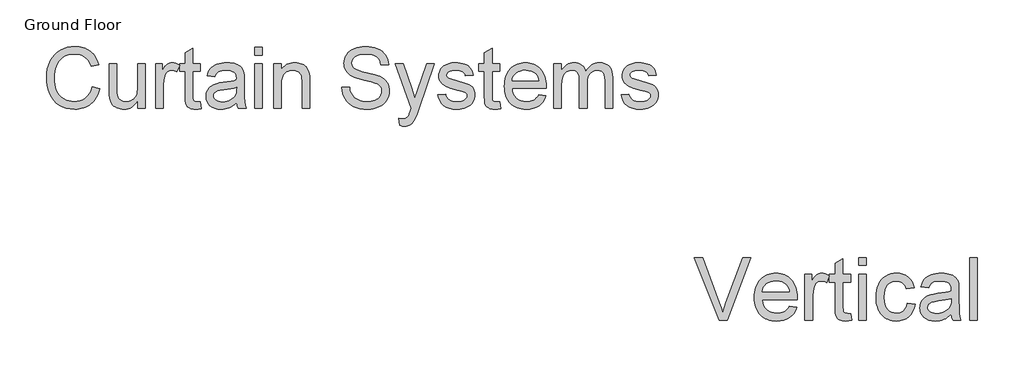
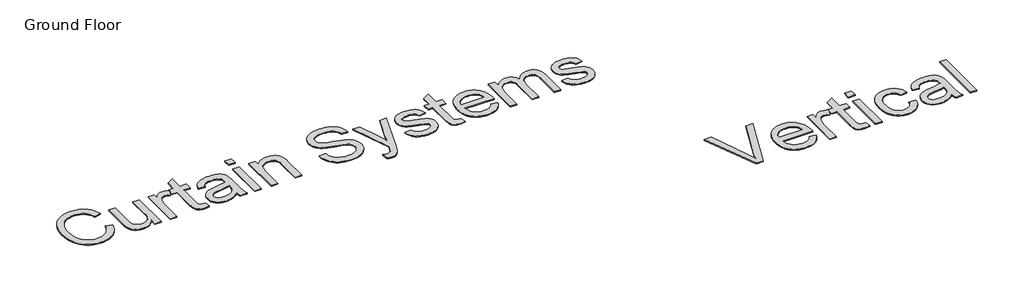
# One storey, part 3 of 11: 2 proxies.
"""IFC4 building model written with IfcOpenShell, lengths in millimetres."""

from ifc_helpers import new_model, si_unit, origin, origin_with_axes, place, context, project, spatial, polyline, outline, extrude, element, save

model = new_model("IFC4")

# Units and contexts
model_context = context("Model", 3, world=origin())
ifc_project = project(units=[si_unit("LENGTHUNIT", "METRE", prefix="MILLI")], contexts=[model_context])

# Site, building, storey
site = spatial("IfcSite", under=ifc_project)
building = spatial("IfcBuilding", under=site)
storey = spatial("IfcBuildingStorey", under=building, Name="Ground Floor", Elevation=0.0)

# Proxies
placement = place(None, origin())
element("IfcBuildingElementProxy", 1, Name="1200mm Arial", ObjectType="1200mm Arial", at=placement, inside=storey, context=model_context, shape_type="SweptSolid", body=[
    extrude(outline(polyline([(-43652.2512377, -5858.0869724), (-43505.3421468, -5895.9619724), (-43534.4119266, -5987.3228566), (-43552.5648474, -6028.6791466), (-43573.1297888, -6067.1526684), (-43596.1067508, -6102.7434221), (-43621.4957334, -6135.4514077), (-43649.2967366, -6165.2766252), (-43679.5097604, -6192.2190746), (-43711.8075232, -6216.1263234), (-43745.8627434, -6236.845939), (-43781.6754209, -6254.3779214), (-43819.2455559, -6268.7222707), (-43858.5731482, -6279.8789868), (-43899.6581979, -6287.8480697), (-43942.500705, -6292.6295194), (-43987.1006695, -6294.223336), (-44076.6861631, -6289.3992948), (-44157.502303, -6274.9271712), (-44229.5490892, -6250.8069653), (-44292.8265218, -6217.0386769), (-44348.2043627, -6174.1244369), (-44396.552374, -6122.5663758), (-44437.8705559, -6062.3644937), (-44472.1589081, -5993.5187906), (-44499.0856659, -5919.006184), (-44518.3190644, -5841.8035917), (-44529.8591034, -5761.9110136), (-44533.7057831, -5679.3284496), (-44529.3569728, -5590.7203175), (-44516.3105416, -5507.9584212), (-44494.5664898, -5431.0427607), (-44464.1248172, -5359.973336), (-44425.666987, -5295.9247742), (-44379.8744621, -5240.0717025), (-44326.7472426, -5192.4141208), (-44266.2853286, -5152.9520292), (-44200.5420757, -5122.0082259), (-44131.5708399, -5099.9055093), (-44059.3716212, -5086.6438793), (-43983.9444195, -5082.223336), (-43899.9182299, -5087.9440391), (-43822.8680701, -5105.1061485), (-43786.9590013, -5117.9777305), (-43752.7939401, -5133.7096641), (-43720.3728863, -5152.3019493), (-43689.6958399, -5173.754586), (-43661.022833, -5197.803059), (-43634.6138975, -5224.1828531), (-43610.4690333, -5252.8939681), (-43588.5882405, -5283.9364042), (-43551.6188691, -5353.0152394), (-43523.7057831, -5431.4193587), (-43670.614874, -5466.4250406), (-43693.7487519, -5408.6531123), (-43721.5452718, -5359.2918729), (-43754.0044337, -5318.3413225), (-43791.1262377, -5285.801461), (-43833.1258826, -5261.0087586), (-43880.2185672, -5243.2996854), (-43932.4042916, -5232.6742415), (-43989.6830559, -5229.1324269), (-44055.5877078, -5233.0598062), (-44115.8613229, -5244.841944), (-44170.503901, -5264.4788403), (-44219.5154422, -5291.9704951), (-44262.2772497, -5326.079515), (-44298.1706269, -5365.5685065), (-44327.1955736, -5410.4374695), (-44349.3520899, -5460.6864042), (-44365.7341034, -5514.0377891), (-44377.4355416, -5568.2141031), (-44384.4564046, -5623.2153459), (-44386.7966922, -5679.0415178), (-44384.0260068, -5749.1963474), (-44375.7139507, -5814.7602678), (-44361.8605239, -5875.7332792), (-44342.4657263, -5932.1153815), (-44317.2157263, -5982.7857472), (-44285.7966922, -6026.6235491), (-44248.208624, -6063.628787), (-44204.4515218, -6093.801461), (-44156.6504742, -6117.213304), (-44106.9305701, -6133.9360491), (-44055.2918094, -6143.9696961), (-44001.7341922, -6147.3142451), (-43937.8649628, -6142.7592025), (-43879.1067064, -6129.0940746), (-43825.459423, -6106.3188616), (-43776.9231127, -6074.4335633), (-43734.6455026, -6033.5816457), (-43699.7743201, -5983.9065746), (-43672.3095651, -5925.4083502), (-43652.2512377, -5858.0869724)])), origin_with_axes(), (0.0, 0.0, 1.0), 20.0),
    extrude(outline(polyline([(-42770.7966922, -6275.8596996), (-42770.7966922, -6127.5159496), (-42796.2798243, -6166.5879933), (-42823.9508115, -6200.4504312), (-42853.8096539, -6229.1032632), (-42885.8563513, -6252.5464894), (-42920.0909039, -6270.7801098), (-42956.5133115, -6283.8041244), (-42995.1235743, -6291.6185331), (-43035.9216922, -6294.223336), (-43072.3172, -6292.3941457), (-43107.4753144, -6286.9065746), (-43141.3960353, -6277.7606229), (-43174.0793627, -6264.9562906), (-43204.0816709, -6249.3902394), (-43229.9593343, -6231.9591315), (-43251.7123527, -6212.6629667), (-43269.3407263, -6191.5017451), (-43283.7500836, -6168.1706016), (-43295.846053, -6142.3646712), (-43313.0978286, -6083.3284496), (-43319.5537945, -6027.6636769), (-43321.7057831, -5946.7489042), (-43321.7057831, -5412.7687906), (-43174.7966922, -5412.7687906), (-43174.7966922, -5877.598336), (-43172.5729706, -5970.5642451), (-43165.9018059, -6027.3767451), (-43157.1055523, -6053.8551719), (-43144.4895189, -6077.3387479), (-43128.0537057, -6097.8274731), (-43107.7981127, -6115.3213474), (-43084.3324699, -6129.3182401), (-43058.2665076, -6139.3160207), (-43029.6002256, -6145.314689), (-42998.333624, -6147.3142451), (-42966.1344941, -6145.2698559), (-42934.9575587, -6139.1366883), (-42904.8028179, -6128.9147423), (-42875.6702718, -6114.6040178), (-42849.1380452, -6096.769412), (-42826.7842632, -6075.9758218), (-42808.6089259, -6052.2232472), (-42794.6120331, -6025.5116883), (-42784.1928215, -5994.1374873), (-42776.7505274, -5956.3969866), (-42772.285151, -5912.2901861), (-42770.7966922, -5861.817086), (-42770.7966922, -5412.7687906), (-42623.8876013, -5412.7687906), (-42623.8876013, -6275.8596996), (-42770.7966922, -6275.8596996)])), origin_with_axes(), (0.0, 0.0, 1.0), 20.0),
    extrude(outline(polyline([(-42421.8876013, -6275.8596996), (-42421.8876013, -5412.7687906), (-42293.3421468, -5412.7687906), (-42293.3421468, -5540.4534496), (-42269.1322746, -5499.6373985), (-42245.8549309, -5466.4250406), (-42223.5101155, -5440.8163758), (-42202.0978286, -5422.8114042), (-42180.6496752, -5410.3836698), (-42158.1972604, -5401.5067167), (-42134.7405843, -5396.1805448), (-42110.2796468, -5394.4051542), (-42073.8393059, -5397.2386059), (-42037.1120331, -5405.738961), (-42000.0978286, -5419.9062195), (-41962.7966922, -5439.7403815), (-42011.8620331, -5571.442086), (-42037.6858968, -5558.2611556), (-42063.5097604, -5548.8462053), (-42089.333624, -5543.1972352), (-42115.1574877, -5541.3142451), (-42137.6726688, -5543.1255022), (-42159.0221894, -5548.5592735), (-42179.2060495, -5557.615559), (-42198.224249, -5570.2943587), (-42215.3594586, -5586.1832082), (-42229.8943485, -5604.8696428), (-42241.8289188, -5626.3536627), (-42251.1631695, -5650.6352678), (-42261.5823811, -5690.7339894), (-42269.0246752, -5732.6977678), (-42274.9785104, -5822.2204951), (-42274.9785104, -6275.8596996), (-42421.8876013, -6275.8596996)])), origin_with_axes(), (0.0, 0.0, 1.0), 20.0),
    extrude(outline(polyline([(-41558.7966922, -6153.3398133), (-41540.4330559, -6280.1636769), (-41598.608482, -6290.7084212), (-41650.3279422, -6294.223336), (-41687.8263442, -6292.6990107), (-41720.8414365, -6288.1260349), (-41749.3732192, -6280.5044084), (-41773.4216922, -6269.8341315), (-41793.6145189, -6256.6890675), (-41810.5793627, -6241.6430803), (-41824.3162235, -6224.6961698), (-41834.8251013, -6205.848336), (-41842.6081269, -6180.5804028), (-41848.1674309, -6144.373194), (-41852.614874, -6039.1409496), (-41852.614874, -5559.6778815), (-41962.7966922, -5559.6778815), (-41962.7966922, -5412.7687906), (-41852.614874, -5412.7687906), (-41852.614874, -5203.0216315), (-41705.7057831, -5116.6551542), (-41705.7057831, -5412.7687906), (-41558.7966922, -5412.7687906), (-41558.7966922, -5559.6778815), (-41705.7057831, -5559.6778815), (-41705.7057831, -6034.8369724), (-41703.7689934, -6083.1849837), (-41697.958624, -6110.5869724), (-41687.808411, -6125.7584923), (-41672.8520899, -6137.4150974), (-41651.6550019, -6144.8394582), (-41622.7824877, -6147.3142451), (-41558.7966922, -6153.3398133)])), origin_with_axes(), (0.0, 0.0, 1.0), 20.0),
    extrude(outline(polyline([(-40860.9785104, -6165.6778815), (-40895.8138264, -6198.3701755), (-40931.1692064, -6225.8618303), (-40967.0446503, -6248.1528459), (-41003.4401581, -6265.2432224), (-41040.7681943, -6277.9220221), (-41079.4412235, -6286.9783076), (-41119.4592455, -6292.4120789), (-41160.8222604, -6294.223336), (-41226.2337483, -6289.865559), (-41283.5932121, -6276.7922281), (-41332.9006517, -6255.0033431), (-41374.1560672, -6224.4989042), (-41406.7317952, -6187.2157011), (-41430.0001723, -6145.0905235), (-41443.9611986, -6098.1233715), (-41448.614874, -6046.3142451), (-41446.8574166, -6015.1642096), (-41441.5850445, -5985.4129667), (-41432.7977576, -5957.0605164), (-41420.4955559, -5930.1068587), (-41405.3330026, -5905.1437906), (-41387.964661, -5882.7631087), (-41368.390531, -5862.9648133), (-41346.6106127, -5845.7489042), (-41298.011536, -5817.7730519), (-41243.7455559, -5797.5443587), (-41190.8783684, -5786.2822849), (-41116.6347604, -5775.4506087), (-40966.4259536, -5752.2091315), (-40908.4298598, -5739.0820008), (-40861.8393059, -5724.9506087), (-40860.9785104, -5692.2403815), (-40863.507097, -5656.6249695), (-40871.092857, -5626.676461), (-40883.7357902, -5602.3948559), (-40901.4358968, -5583.7801542), (-40932.0300019, -5565.201319), (-40969.2952718, -5551.9307224), (-41013.2317064, -5543.9683644), (-41063.8393059, -5541.3142451), (-41110.896124, -5543.0806691), (-41151.3535104, -5548.3799411), (-41185.2114649, -5557.2120611), (-41212.4699877, -5569.5770292), (-41234.8686027, -5586.4432401), (-41254.1468343, -5608.7790888), (-41270.3046823, -5636.5845754), (-41283.3421468, -5669.8596996), (-41430.2512377, -5651.4960633), (-41419.0698634, -5609.1736201), (-41404.7501723, -5571.1551542), (-41387.2921645, -5537.4406656), (-41366.6958399, -5508.0301542), (-41342.0735033, -5482.3318232), (-41312.5374593, -5459.7538758), (-41278.0877078, -5440.2963119), (-41238.724249, -5423.9591315), (-41195.245112, -5411.0292664), (-41148.4483257, -5401.7936485), (-41098.3338904, -5396.2522778), (-41044.9018059, -5394.4051542), (-40992.6712483, -5396.0370789), (-40945.5875303, -5400.9328531), (-40903.6506517, -5409.0924766), (-40866.8606127, -5420.5159496), (-40834.912548, -5434.405243), (-40807.5015928, -5449.9623275), (-40784.6277469, -5467.1872032), (-40766.2910104, -5486.0798701), (-40751.4243556, -5507.1065924), (-40738.9607547, -5530.7336343), (-40721.2427149, -5585.7886769), (-40715.8627434, -5636.5756087), (-40714.0694195, -5714.3341315), (-40714.0694195, -5897.1096996), (-40712.2043627, -6056.3209923), (-40706.6091922, -6152.3355519), (-40695.5623172, -6215.4246854), (-40677.3421468, -6275.8596996), (-40824.2512377, -6275.8596996), (-40837.3066354, -6251.3270292), (-40847.7796468, -6224.785836), (-40860.9785104, -6165.6778815)]), holes=[polyline([(-40860.9785104, -5871.8596996), (-40905.3812093, -5884.5743658), (-40959.6830559, -5896.3206371), (-41097.9841922, -5916.9079951), (-41174.2004564, -5928.170069), (-41224.3776581, -5940.723336), (-41257.2672178, -5957.0067167), (-41281.6205559, -5979.4591315), (-41296.6844763, -6006.3589894), (-41301.7057831, -6035.9846996), (-41298.9709642, -6058.8137124), (-41290.7665076, -6079.670069), (-41277.0924131, -6098.5537692), (-41257.9486809, -6115.4648133), (-41233.5146432, -6129.3989397), (-41203.9696326, -6139.3518871), (-41169.3136489, -6145.3236556), (-41129.5466922, -6147.3142451), (-41088.9458399, -6145.1174234), (-41050.6404422, -6138.5269582), (-41014.630499, -6127.5428495), (-40980.9160104, -6112.1650974), (-40950.5012377, -6093.6669617), (-40924.3904422, -6073.3217025), (-40902.583624, -6051.1293197), (-40885.0807831, -6027.0898133), (-40874.9126368, -6005.5699269), (-40867.6496752, -5979.4591315), (-40863.2918982, -5948.7574269), (-40861.8393059, -5913.4648133), (-40860.9785104, -5871.8596996)])]), origin_with_axes(), (0.0, 0.0, 1.0), 20.0),
    extrude(outline(polyline([(-40512.0694195, -5247.4960633), (-40512.0694195, -5100.5869724), (-40365.1603286, -5100.5869724), (-40365.1603286, -5247.4960633), (-40512.0694195, -5247.4960633)])), origin_with_axes(), (0.0, 0.0, 1.0), 20.0),
    extrude(outline(polyline([(-40512.0694195, -6275.8596996), (-40512.0694195, -5412.7687906), (-40365.1603286, -5412.7687906), (-40365.1603286, -6275.8596996), (-40512.0694195, -6275.8596996)])), origin_with_axes(), (0.0, 0.0, 1.0), 20.0),
    extrude(outline(polyline([(-40144.7966922, -6275.8596996), (-40144.7966922, -5412.7687906), (-39997.8876013, -5412.7687906), (-39997.8876013, -5533.2801542), (-39973.6508293, -5500.7313261), (-39946.8496041, -5472.5223417), (-39917.4839259, -5448.6532011), (-39885.5537945, -5429.1239042), (-39851.05921, -5413.9344511), (-39814.0001723, -5403.0848417), (-39774.3766816, -5396.5750761), (-39732.1887377, -5394.4051542), (-39695.2193662, -5396.153645), (-39659.7743201, -5401.3991173), (-39625.8535992, -5410.1415711), (-39593.4572036, -5422.3810065), (-39563.8135601, -5437.4628602), (-39538.1510956, -5454.732569), (-39516.4698101, -5474.1901329), (-39498.7697036, -5495.8355519), (-39472.049178, -5545.5823559), (-39454.7256695, -5603.8653815), (-39448.9153002, -5659.6018871), (-39446.9785104, -5745.8966315), (-39446.9785104, -6275.8596996), (-39593.8876013, -6275.8596996), (-39593.8876013, -5765.6949269), (-39598.1198456, -5689.7297281), (-39603.410151, -5659.9784852), (-39610.8165786, -5635.7148133), (-39620.9040253, -5615.2798879), (-39634.2373882, -5597.0148843), (-39650.8166674, -5580.9198026), (-39670.6418627, -5566.9946428), (-39693.0315111, -5555.7594688), (-39717.3041496, -5547.7343445), (-39743.4597782, -5542.91927), (-39771.4983968, -5541.3142451), (-39816.1073279, -5544.9188261), (-39857.5420757, -5555.732569), (-39895.8026404, -5573.7554738), (-39930.8890218, -5598.9875406), (-39946.5918138, -5615.0243392), (-39960.2009003, -5634.2980874), (-39971.7162812, -5656.8087852), (-39981.1379564, -5682.5564326), (-39993.7001901, -5743.7625761), (-39997.8876013, -5817.9165178), (-39997.8876013, -6275.8596996), (-40144.7966922, -6275.8596996)])), origin_with_axes(), (0.0, 0.0, 1.0), 20.0),
    extrude(outline(polyline([(-38822.614874, -5871.8596996), (-38675.7057831, -5871.8596996), (-38668.9808186, -5914.6215072), (-38658.8485388, -5953.3842025), (-38645.3089436, -5988.1477856), (-38628.3620331, -6018.9122565), (-38607.1470118, -6046.2963119), (-38580.8030843, -6070.9186485), (-38549.3302505, -6092.7792664), (-38512.7285104, -6111.8781656), (-38472.342857, -6127.3814504), (-38429.5182831, -6138.4552252), (-38384.2547888, -6145.0994901), (-38336.552374, -6147.3142451), (-38294.3554635, -6145.6374873), (-38254.7050729, -6140.6072138), (-38217.6012022, -6132.2234248), (-38183.0438513, -6120.4861201), (-38151.8848492, -6105.8167309), (-38124.9760246, -6088.6366883), (-38102.3173776, -6068.9459923), (-38083.9089081, -6046.7446428), (-38069.66095, -6022.9920682), (-38059.4838371, -5998.6476968), (-38053.3775693, -5973.7115285), (-38051.3421468, -5948.1835633), (-38052.866472, -5922.7631975), (-38057.4394479, -5899.0106229), (-38065.0610743, -5876.9258396), (-38075.7313513, -5856.5088474), (-38091.1180701, -5837.6520469), (-38112.8890218, -5820.2478388), (-38141.0442064, -5804.2962231), (-38175.583624, -5789.7971996), (-38253.1628144, -5766.7350548), (-38389.4912945, -5733.7020292), (-38529.908553, -5696.5802252), (-38581.1527824, -5678.6918197), (-38619.7540786, -5661.2517451), (-38658.9830381, -5637.8488687), (-38692.8858257, -5611.8277394), (-38721.4624415, -5583.1883573), (-38744.7128854, -5551.9307224), (-38762.7268236, -5518.3776329), (-38775.5939223, -5482.8518871), (-38783.3141816, -5445.3534852), (-38785.8876013, -5405.8824269), (-38782.7044514, -5362.1342913), (-38773.1550019, -5319.8387479), (-38757.2392526, -5278.9957969), (-38734.9572036, -5239.6054383), (-38706.5599202, -5203.2726968), (-38672.2984678, -5171.6025974), (-38632.1728463, -5144.59514), (-38586.1830559, -5122.2503246), (-38535.8803215, -5104.7385171), (-38482.8158684, -5092.2300832), (-38426.9896965, -5084.7250228), (-38368.4018059, -5082.223336), (-38304.4877434, -5084.8415888), (-38244.4472604, -5092.6963474), (-38188.280357, -5105.7876116), (-38135.9870331, -5124.1153815), (-38088.5356837, -5147.5182579), (-38046.8947036, -5175.8348417), (-38011.0640928, -5209.0651329), (-37981.0438513, -5247.2091315), (-37957.0671113, -5289.1549766), (-37939.3670047, -5333.7908076), (-37927.9435317, -5381.1166244), (-37922.7966922, -5431.1324269), (-38069.7057831, -5431.1324269), (-38079.5331979, -5384.2549411), (-38096.677374, -5343.4747565), (-38121.1383115, -5308.7918729), (-38152.9160104, -5280.2062906), (-38192.6022675, -5257.8614752), (-38240.7888797, -5241.9008928), (-38297.475847, -5232.3245434), (-38362.6631695, -5229.1324269), (-38429.9307476, -5232.2886769), (-38487.4067774, -5241.7574269), (-38535.091259, -5257.5386769), (-38572.9841922, -5279.6324269), (-38601.8567064, -5306.1915533), (-38622.4799309, -5335.3689326), (-38634.8538655, -5367.1645647), (-38638.9785104, -5401.5784496), (-38636.0553925, -5431.1862266), (-38627.2860388, -5458.0322849), (-38612.6704493, -5482.1166244), (-38592.208624, -5503.4392451), (-38560.0005274, -5523.6320718), (-38509.2853286, -5544.0400974), (-38440.0630274, -5564.6633218), (-38352.333624, -5585.5017451), (-38190.3606127, -5624.8831371), (-38133.3687803, -5642.6908431), (-38092.3733968, -5659.2432224), (-38047.3340679, -5684.3318232), (-38008.6251723, -5712.5408076), (-37976.24671, -5743.8701755), (-37950.1986809, -5778.3199269), (-37930.1762199, -5815.7107295), (-37915.8744621, -5855.8632508), (-37907.2934074, -5898.7774908), (-37904.4330559, -5944.4534496), (-37907.7238051, -5990.4073736), (-37917.596053, -6035.0163048), (-37934.0497995, -6078.280243), (-37957.0850445, -6120.1991883), (-37986.2982902, -6159.1501826), (-38021.2860388, -6193.5102678), (-38062.0482902, -6223.279444), (-38108.5850445, -6248.457711), (-38159.5423421, -6268.4801719), (-38213.5662235, -6282.7819298), (-38270.6566887, -6291.3629844), (-38330.8137377, -6294.223336), (-38405.9629742, -6291.138819), (-38474.745911, -6281.8852678), (-38537.162548, -6266.4626826), (-38593.2128854, -6244.8710633), (-38643.2376546, -6217.0745434), (-38687.5775871, -6183.0372565), (-38726.232683, -6142.7592025), (-38759.2029422, -6096.2403815), (-38785.7620686, -6044.9871854), (-38805.1837661, -5990.5060065), (-38817.4680345, -5932.7968445), (-38822.614874, -5871.8596996)])), origin_with_axes(), (0.0, 0.0, 1.0), 20.0),
    extrude(outline(polyline([(-37702.4330559, -6606.4051542), (-37720.7966922, -6464.9477678), (-37680.7697036, -6474.6317167), (-37646.1944195, -6477.8596996), (-37606.9564934, -6473.8067877), (-37576.4699877, -6461.6480519), (-37552.7263797, -6442.2442877), (-37533.7171468, -6416.4562906), (-37517.505499, -6378.5095576), (-37493.5466922, -6308.2829951), (-37482.0694195, -6272.7034496), (-37794.2512377, -5412.7687906), (-37639.3080559, -5412.7687906), (-37473.7483968, -5891.9449269), (-37443.2618911, -5985.4846996), (-37416.0751013, -6083.6153815), (-37358.4018059, -5914.3256087), (-37188.2512377, -5412.7687906), (-37034.4557831, -5412.7687906), (-37334.8733968, -6296.5187906), (-37379.4912945, -6414.0173701), (-37412.9188513, -6488.1892451), (-37432.2329493, -6521.1326045), (-37452.874107, -6549.3774553), (-37474.8423243, -6572.9237977), (-37498.1376013, -6591.7716315), (-37523.2620686, -6606.2078886), (-37550.717857, -6616.5195008), (-37580.5049664, -6622.7064681), (-37612.6233968, -6624.7687906), (-37655.1610388, -6620.1778815), (-37702.4330559, -6606.4051542)])), origin_with_axes(), (0.0, 0.0, 1.0), 20.0),
    extrude(outline(polyline([(-36967.8876013, -6018.7687906), (-36820.9785104, -6000.4051542), (-36812.1015573, -6033.904444), (-36797.8087661, -6063.2432224), (-36778.1001368, -6088.4214894), (-36752.9756695, -6109.4392451), (-36722.3636311, -6126.0095576), (-36686.1922888, -6137.8454951), (-36644.4616425, -6144.9470576), (-36597.1716922, -6147.3142451), (-36549.9355416, -6145.1443232), (-36509.2270899, -6138.6345576), (-36475.0463371, -6127.7849482), (-36447.3932831, -6112.5954951), (-36426.0527291, -6094.4829241), (-36410.8094763, -6074.863961), (-36401.6635246, -6053.7386059), (-36398.614874, -6031.1068587), (-36401.6814578, -6011.2726968), (-36410.8812093, -5993.6622565), (-36426.2141283, -5978.2755377), (-36447.6802149, -5965.1125406), (-36502.6993911, -5946.4619724), (-36598.8932831, -5923.2204951), (-36732.9621752, -5884.4488332), (-36820.1177149, -5851.3440746), (-36850.0393236, -5834.7468623), (-36876.105286, -5815.226532), (-36898.315602, -5792.7830839), (-36916.6702718, -5767.4165178), (-36931.0437625, -5739.8889965), (-36941.3105416, -5710.9626826), (-36947.4706091, -5680.6375761), (-36949.5239649, -5648.9136769), (-36947.874107, -5619.9066634), (-36942.9245331, -5591.9935775), (-36934.6752434, -5565.1744191), (-36923.1262377, -5539.4491883), (-36908.725847, -5515.3379489), (-36891.9224024, -5493.360765), (-36872.7159039, -5473.5176364), (-36851.1063513, -5455.8085633), (-36810.5413655, -5432.1725548), (-36757.7100445, -5412.3383928), (-36696.6294337, -5398.8884638), (-36631.3165786, -5394.4051542), (-36581.9463726, -5396.2074447), (-36535.6965502, -5401.6143161), (-36492.5671113, -5410.6257685), (-36452.5580559, -5423.2418019), (-36416.6198456, -5438.9333857), (-36385.7029422, -5457.1714894), (-36359.8073456, -5477.956113), (-36338.9330559, -5501.2872565), (-36322.0040786, -5527.9808822), (-36307.9444195, -5558.8529525), (-36296.7540786, -5593.9034674), (-36288.4330559, -5633.1324269), (-36435.3421468, -5651.4960633), (-36442.3450764, -5626.9544262), (-36453.8851155, -5605.2641741), (-36469.9622639, -5586.4253069), (-36490.5765218, -5570.4378246), (-36515.8175551, -5557.6962586), (-36545.7750303, -5548.59514), (-36580.4489472, -5543.1344688), (-36619.8393059, -5541.3142451), (-36665.5331979, -5543.0537692), (-36704.1972604, -5548.2723417), (-36735.8314934, -5556.9699624), (-36760.4358968, -5569.1466315), (-36778.8891993, -5583.6366883), (-36792.0701297, -5599.2744724), (-36799.978688, -5616.0599837), (-36802.614874, -5633.9932224), (-36798.2391638, -5656.5891031), (-36785.1120331, -5676.7460633), (-36762.6596184, -5694.7510349), (-36730.3080559, -5709.1693587), (-36603.771124, -5740.4449269), (-36473.9703428, -5778.8220576), (-36388.1418627, -5809.5954951), (-36357.9422888, -5824.6056158), (-36331.1858968, -5842.6643871), (-36307.8726865, -5863.771809), (-36288.0026581, -5887.9278815), (-36272.1227753, -5915.1684709), (-36260.7800019, -5945.529444), (-36253.9743378, -5979.0108005), (-36251.7057831, -6015.6125406), (-36254.3688691, -6052.3756798), (-36262.3581269, -6088.0628246), (-36275.6735566, -6122.6739752), (-36294.3151581, -6156.2091315), (-36317.9780665, -6187.3322671), (-36346.3574166, -6214.7073559), (-36379.4532086, -6238.3343978), (-36417.2654422, -6258.2133928), (-36458.7629564, -6273.967743), (-36502.9145899, -6285.2208502), (-36549.7203428, -6291.9727146), (-36599.1802149, -6294.223336), (-36678.2478641, -6289.8834923), (-36747.3087661, -6276.863961), (-36806.3629209, -6255.1647423), (-36855.4103286, -6224.785836), (-36895.4731837, -6185.8707082), (-36927.5736809, -6138.5628246), (-36951.7118201, -6082.8621854), (-36967.8876013, -6018.7687906)])), origin_with_axes(), (0.0, 0.0, 1.0), 20.0),
    extrude(outline(polyline([(-35774.2512377, -6153.3398133), (-35755.8876013, -6280.1636769), (-35814.0630274, -6290.7084212), (-35865.7824877, -6294.223336), (-35903.2808897, -6292.6990107), (-35936.295982, -6288.1260349), (-35964.8277647, -6280.5044084), (-35988.8762377, -6269.8341315), (-36009.0690644, -6256.6890675), (-36026.0339081, -6241.6430803), (-36039.7707689, -6224.6961698), (-36050.2796468, -6205.848336), (-36058.0626723, -6180.5804028), (-36063.6219763, -6144.373194), (-36068.0694195, -6039.1409496), (-36068.0694195, -5559.6778815), (-36178.2512377, -5559.6778815), (-36178.2512377, -5412.7687906), (-36068.0694195, -5412.7687906), (-36068.0694195, -5203.0216315), (-35921.1603286, -5116.6551542), (-35921.1603286, -5412.7687906), (-35774.2512377, -5412.7687906), (-35774.2512377, -5559.6778815), (-35921.1603286, -5559.6778815), (-35921.1603286, -6034.8369724), (-35919.2235388, -6083.1849837), (-35913.4131695, -6110.5869724), (-35903.2629564, -6125.7584923), (-35888.3066354, -6137.4150974), (-35867.1095473, -6144.8394582), (-35838.2370331, -6147.3142451), (-35774.2512377, -6153.3398133)])), origin_with_axes(), (0.0, 0.0, 1.0), 20.0),
    extrude(outline(polyline([(-35023.0637377, -6018.7687906), (-34879.0239649, -6037.1324269), (-34901.1087483, -6094.8236556), (-34930.9227576, -6145.6643871), (-34968.4659926, -6189.6546215), (-35013.7384536, -6226.7943587), (-35066.2738762, -6256.2945363), (-35125.6059962, -6277.3660917), (-35191.7348137, -6290.0090249), (-35264.6603286, -6294.223336), (-35311.4795314, -6292.4053539), (-35355.8149806, -6286.9514077), (-35397.6666762, -6277.8614974), (-35437.0346184, -6265.1356229), (-35473.9188069, -6248.7737843), (-35508.3192419, -6228.7759816), (-35540.2359234, -6205.1422147), (-35569.6688513, -6177.8724837), (-35596.0979617, -6147.3209701), (-35619.0031908, -6113.8418552), (-35638.3845385, -6077.4351391), (-35654.2420047, -6038.1008218), (-35666.5755896, -5995.8389033), (-35675.3852931, -5950.6493836), (-35680.6711152, -5902.5322627), (-35682.4330559, -5851.4875406), (-35680.6531819, -5798.7055359), (-35675.3135601, -5748.9632153), (-35666.4141904, -5702.2605785), (-35653.9550729, -5658.5976258), (-35637.9362075, -5617.974357), (-35618.3575942, -5580.3907721), (-35595.2192331, -5545.8468712), (-35568.521124, -5514.3426542), (-35538.98508, -5486.2323026), (-35507.3329138, -5461.8699979), (-35473.5646255, -5441.2557401), (-35437.6802149, -5424.3895292), (-35399.6796823, -5411.2713651), (-35359.5630274, -5401.9012479), (-35317.3302505, -5396.2791776), (-35272.9813513, -5394.4051542), (-35230.0828028, -5396.2746943), (-35189.1882938, -5401.8833147), (-35150.2978241, -5411.2310153), (-35113.4113939, -5424.3177962), (-35078.5290031, -5441.1436574), (-35045.6506517, -5461.7085988), (-35014.7763398, -5486.0126205), (-34985.9060672, -5514.0557224), (-34959.7795802, -5545.4882064), (-34937.1366247, -5579.9603744), (-34917.9772009, -5617.4722263), (-34902.3013087, -5658.0237621), (-34890.1089481, -5701.614982), (-34881.4001191, -5748.2458857), (-34876.1748217, -5797.9164734), (-34874.4330559, -5850.6267451), (-34875.2938513, -5890.223336), (-35535.5239649, -5890.223336), (-35527.0146432, -5948.8470931), (-35510.0946326, -6000.1899553), (-35484.763933, -6044.2519227), (-35451.0225445, -6081.0329951), (-35410.7355239, -6110.031042), (-35365.767928, -6130.7439326), (-35316.1197568, -6143.171667), (-35261.7910104, -6147.3142451), (-35221.1542916, -6145.3953886), (-35183.6020899, -6139.638819), (-35149.1344053, -6130.0445363), (-35117.7512377, -6116.6125406), (-35089.4525871, -6098.984167), (-35064.2384536, -6076.8007508), (-35042.1088371, -6050.062292), (-35023.0637377, -6018.7687906)]), holes=[polyline([(-35535.5239649, -5743.3142451), (-35021.3421468, -5743.3142451), (-35028.8920402, -5701.7449979), (-35041.2121752, -5665.6991883), (-35058.3025516, -5635.1768161), (-35080.1631695, -5610.1778815), (-35120.2260246, -5580.0500406), (-35165.8123172, -5558.5301542), (-35216.9220473, -5545.6182224), (-35273.5552149, -5541.3142451), (-35325.2119088, -5544.7484603), (-35372.5825587, -5555.0511059), (-35415.6671645, -5572.2221819), (-35454.4657263, -5596.2616883), (-35487.0235211, -5626.0577643), (-35511.3858257, -5660.4985491), (-35527.5526404, -5699.5840427), (-35535.5239649, -5743.3142451)])]), origin_with_axes(), (0.0, 0.0, 1.0), 20.0),
    extrude(outline(polyline([(-34727.5239649, -6275.8596996), (-34727.5239649, -5412.7687906), (-34580.614874, -5412.7687906), (-34580.614874, -5554.8000406), (-34560.099249, -5520.4130555), (-34536.427374, -5489.5589184), (-34509.599249, -5462.2376293), (-34479.614874, -5438.4491883), (-34446.9584465, -5419.1799234), (-34412.1141638, -5405.4161627), (-34375.082026, -5397.1579063), (-34335.8620331, -5394.4051542), (-34292.9836595, -5397.211706), (-34254.1581979, -5405.6313616), (-34219.3856482, -5419.6641208), (-34188.6660104, -5439.3099837), (-34162.0889507, -5464.01302), (-34139.7441354, -5493.2172991), (-34121.6315644, -5526.9228211), (-34107.7512377, -5565.129586), (-34081.9184074, -5525.1160473), (-34054.2025871, -5490.4376471), (-34024.6037767, -5461.0943854), (-33993.1219763, -5437.0862621), (-33959.7571858, -5418.4132774), (-33924.5094053, -5405.0754312), (-33887.3786347, -5397.0727234), (-33848.364874, -5394.4051542), (-33789.5528179, -5398.8436307), (-33737.9319905, -5412.1590604), (-33693.5023918, -5434.3514432), (-33656.2640218, -5465.4207792), (-33626.8266105, -5505.725733), (-33605.7998882, -5555.6249695), (-33593.1838549, -5615.1184887), (-33588.9785104, -5684.2062906), (-33588.9785104, -6275.8596996), (-33735.8876013, -6275.8596996), (-33735.8876013, -5747.3312906), (-33739.2949166, -5674.0560775), (-33749.5168627, -5624.6679383), (-33757.7123527, -5606.8512657), (-33768.6695615, -5590.8458502), (-33782.3884891, -5576.6516918), (-33798.8691354, -5564.2687906), (-33817.510737, -5554.2261769), (-33837.7125303, -5547.0528815), (-33882.7966922, -5541.3142451), (-33924.4287057, -5544.990559), (-33962.3844053, -5556.0195008), (-33996.6637909, -5574.4010704), (-34027.2668627, -5600.1352678), (-34052.4361631, -5633.9752891), (-34070.4142348, -5676.6743303), (-34081.2010779, -5728.2323914), (-34084.7966922, -5788.6494724), (-34084.7966922, -6275.8596996), (-34231.7057831, -6275.8596996), (-34231.7057831, -5730.9761769), (-34233.8308719, -5686.4658786), (-34240.2061382, -5647.9094156), (-34250.8315821, -5615.3067877), (-34265.7072036, -5588.6579951), (-34285.4247995, -5567.9451045), (-34310.5761666, -5553.1501826), (-34341.1613051, -5544.2732295), (-34377.1802149, -5541.3142451), (-34406.0347959, -5543.2869013), (-34433.7775161, -5549.2048701), (-34460.4083755, -5559.0681513), (-34485.927374, -5572.8767451), (-34509.1688513, -5590.4871854), (-34528.9671468, -5611.7560065), (-34545.3222604, -5636.6832082), (-34558.2341922, -5665.2687906), (-34568.0257405, -5699.0370789), (-34575.0197036, -5739.5123985), (-34580.614874, -5840.5841315), (-34580.614874, -6275.8596996), (-34727.5239649, -6275.8596996)])), origin_with_axes(), (0.0, 0.0, 1.0), 20.0),
    extrude(outline(polyline([(-33423.7057831, -6018.7687906), (-33276.7966922, -6000.4051542), (-33267.9197391, -6033.904444), (-33253.6269479, -6063.2432224), (-33233.9183186, -6088.4214894), (-33208.7938513, -6109.4392451), (-33178.181813, -6126.0095576), (-33142.0104706, -6137.8454951), (-33100.2798243, -6144.9470576), (-33052.989874, -6147.3142451), (-33005.7537235, -6145.1443232), (-32965.0452718, -6138.6345576), (-32930.8645189, -6127.7849482), (-32903.2114649, -6112.5954951), (-32881.870911, -6094.4829241), (-32866.6276581, -6074.863961), (-32857.4817064, -6053.7386059), (-32854.4330559, -6031.1068587), (-32857.4996397, -6011.2726968), (-32866.6993911, -5993.6622565), (-32882.0323101, -5978.2755377), (-32903.4983968, -5965.1125406), (-32958.5175729, -5946.4619724), (-33054.7114649, -5923.2204951), (-33188.780357, -5884.4488332), (-33275.9358968, -5851.3440746), (-33305.8575054, -5834.7468623), (-33331.9234678, -5815.226532), (-33354.1337838, -5792.7830839), (-33372.4884536, -5767.4165178), (-33386.8619443, -5739.8889965), (-33397.1287235, -5710.9626826), (-33403.2887909, -5680.6375761), (-33405.3421468, -5648.9136769), (-33403.6922888, -5619.9066634), (-33398.7427149, -5591.9935775), (-33390.4934252, -5565.1744191), (-33378.9444195, -5539.4491883), (-33364.5440289, -5515.3379489), (-33347.7405843, -5493.360765), (-33328.5340857, -5473.5176364), (-33306.9245331, -5455.8085633), (-33266.3595473, -5432.1725548), (-33213.5282263, -5412.3383928), (-33152.4476155, -5398.8884638), (-33087.1347604, -5394.4051542), (-33037.7645544, -5396.2074447), (-32991.514732, -5401.6143161), (-32948.3852931, -5410.6257685), (-32908.3762377, -5423.2418019), (-32872.4380274, -5438.9333857), (-32841.521124, -5457.1714894), (-32815.6255274, -5477.956113), (-32794.7512377, -5501.2872565), (-32777.8222604, -5527.9808822), (-32763.7626013, -5558.8529525), (-32752.5722604, -5593.9034674), (-32744.2512377, -5633.1324269), (-32891.1603286, -5651.4960633), (-32898.1632583, -5626.9544262), (-32909.7032973, -5605.2641741), (-32925.7804458, -5586.4253069), (-32946.3947036, -5570.4378246), (-32971.635737, -5557.6962586), (-33001.5932121, -5548.59514), (-33036.267129, -5543.1344688), (-33075.6574877, -5541.3142451), (-33121.3513797, -5543.0537692), (-33160.0154422, -5548.2723417), (-33191.6496752, -5556.9699624), (-33216.2540786, -5569.1466315), (-33234.7073811, -5583.6366883), (-33247.8883115, -5599.2744724), (-33255.7968698, -5616.0599837), (-33258.4330559, -5633.9932224), (-33254.0573456, -5656.5891031), (-33240.9302149, -5676.7460633), (-33218.4778002, -5694.7510349), (-33186.1262377, -5709.1693587), (-33059.5893059, -5740.4449269), (-32929.7885246, -5778.8220576), (-32843.9600445, -5809.5954951), (-32813.7604706, -5824.6056158), (-32787.0040786, -5842.6643871), (-32763.6908684, -5863.771809), (-32743.8208399, -5887.9278815), (-32727.9409571, -5915.1684709), (-32716.5981837, -5945.529444), (-32709.7925196, -5979.0108005), (-32707.5239649, -6015.6125406), (-32710.1870509, -6052.3756798), (-32718.1763087, -6088.0628246), (-32731.4917384, -6122.6739752), (-32750.1333399, -6156.2091315), (-32773.7962483, -6187.3322671), (-32802.1755985, -6214.7073559), (-32835.2713904, -6238.3343978), (-32873.083624, -6258.2133928), (-32914.5811382, -6273.967743), (-32958.7327718, -6285.2208502), (-33005.5385246, -6291.9727146), (-33054.9983968, -6294.223336), (-33134.0660459, -6289.8834923), (-33203.1269479, -6276.863961), (-33262.1811027, -6255.1647423), (-33311.2285104, -6224.785836), (-33351.2913655, -6185.8707082), (-33383.3918627, -6138.5628246), (-33407.5300019, -6082.8621854), (-33423.7057831, -6018.7687906)])), origin_with_axes(), (0.0, 0.0, 1.0), 20.0),
])
element("IfcBuildingElementProxy", 2, Name="1200mm Arial", ObjectType="1200mm Arial", at=placement, inside=storey, context=model_context, shape_type="SweptSolid", body=[
    extrude(outline(polyline([(-31530.9350667, -10369.0635658), (-32010.6531884, -9163.587844), (-31849.3737217, -9163.587844), (-31528.2863163, -10032.0836582), (-31492.6017628, -10133.2512069), (-31463.2447796, -10227.7968796), (-31433.3727616, -10129.8666925), (-31399.0861596, -10032.0836582), (-31077.1158374, -9163.587844), (-30915.8363708, -9163.587844), (-31375.2474063, -10369.0635658), (-31530.9350667, -10369.0635658)])), origin_with_axes(), (0.0, 0.0, 1.0), 20.0),
    extrude(outline(polyline([(-30174.7748797, -10105.3657516), (-30027.0334704, -10124.2013098), (-30049.6858043, -10183.3751287), (-30080.2659951, -10235.5224015), (-30118.774043, -10280.6431282), (-30165.2099478, -10318.7373088), (-30219.095463, -10348.9956029), (-30279.9523421, -10370.6086701), (-30347.780585, -10383.5765105), (-30422.5801916, -10387.8991239), (-30470.6025876, -10386.034422), (-30516.0774007, -10380.4403165), (-30559.004631, -10371.1168071), (-30599.3842785, -10358.0638941), (-30637.2163432, -10341.2815773), (-30672.5008251, -10320.7698568), (-30705.2377241, -10296.5287326), (-30735.4270403, -10268.5582047), (-30762.5353448, -10237.2215565), (-30786.0292088, -10202.8820715), (-30805.9086321, -10165.5397497), (-30822.1736148, -10125.1945912), (-30834.8241569, -10081.8465958), (-30843.8602584, -10035.4957637), (-30849.2819193, -9986.1420948), (-30851.0891396, -9933.7855891), (-30849.2635252, -9879.647155), (-30843.786682, -9828.6265207), (-30834.65861, -9780.7236864), (-30821.8793092, -9735.9386521), (-30805.4487796, -9694.2714176), (-30785.3670212, -9655.721983), (-30761.634034, -9620.2903484), (-30734.2498179, -9587.9765136), (-30703.9547356, -9559.1437622), (-30671.4891496, -9534.1553777), (-30636.8530597, -9513.01136), (-30600.0464661, -9495.7117092), (-30561.0693687, -9482.2564252), (-30519.9217676, -9472.6455081), (-30476.6036626, -9466.8789578), (-30431.1150539, -9464.9567744), (-30387.114068, -9466.8743593), (-30345.1686228, -9472.627114), (-30305.2787182, -9482.2150385), (-30267.4443543, -9495.6381328), (-30231.665531, -9512.8963969), (-30197.9422483, -9533.9898308), (-30166.2745063, -9558.9184345), (-30136.662305, -9587.682208), (-30109.8644009, -9619.9224664), (-30086.6395507, -9655.2805246), (-30066.9877544, -9693.7563828), (-30050.9090119, -9735.3500409), (-30038.4033233, -9780.0614989), (-30029.4706886, -9827.8907568), (-30024.1111078, -9878.8378146), (-30022.3245809, -9932.9026723), (-30023.2074977, -9973.5168445), (-30700.4046744, -9973.5168445), (-30691.676674, -10033.6471567), (-30674.3218409, -10086.3094643), (-30648.340175, -10131.5037674), (-30613.7316763, -10169.230066), (-30572.4093312, -10198.9733253), (-30526.2861261, -10220.2185105), (-30475.3620609, -10232.9656216), (-30419.6371357, -10237.2146587), (-30377.9561056, -10235.24649), (-30339.4388607, -10229.341984), (-30304.085401, -10219.5011406), (-30271.8957264, -10205.7239599), (-30242.869837, -10187.6425598), (-30217.0077327, -10164.8890584), (-30194.3094136, -10137.4634557), (-30174.7748797, -10105.3657516)]), holes=[polyline([(-30700.4046744, -9822.8323793), (-30173.0090461, -9822.8323793), (-30180.7529621, -9780.1948561), (-30193.3897086, -9743.2227156), (-30210.9192857, -9711.9159578), (-30233.3416933, -9686.2745827), (-30274.4341122, -9655.3724951), (-30321.1919138, -9633.2995754), (-30373.6150981, -9620.0558236), (-30431.7036651, -9615.6412396), (-30484.6878695, -9619.1637097), (-30533.275884, -9629.7311201), (-30577.4677086, -9647.3434706), (-30617.2633435, -9672.0007613), (-30650.6578316, -9702.562558), (-30675.6462161, -9737.8884266), (-30692.228497, -9777.9783671), (-30700.4046744, -9822.8323793)])]), origin_with_axes(), (0.0, 0.0, 1.0), 20.0),
    extrude(outline(polyline([(-29871.6401157, -10369.0635658), (-29871.6401157, -9483.7923326), (-29739.7912086, -9483.7923326), (-29739.7912086, -9614.7583228), (-29714.9591739, -9572.8933518), (-29691.0836324, -9538.827479), (-29668.1645841, -9512.5607046), (-29646.202029, -9494.0930284), (-29624.2026857, -9481.3459173), (-29601.1732728, -9472.2408379), (-29577.1137903, -9466.7777903), (-29552.0242382, -9464.9567744), (-29514.6474275, -9467.8630422), (-29476.9763112, -9476.5818455), (-29439.0108893, -9491.1131843), (-29400.7511618, -9511.4570586), (-29451.0774188, -9646.5433272), (-29477.5649224, -9633.0236639), (-29504.0524261, -9623.3667615), (-29530.5399297, -9617.5726201), (-29557.0274334, -9615.6412396), (-29580.1212256, -9617.4990437), (-29602.0194014, -9623.0724559), (-29622.7219607, -9632.3614763), (-29642.2289035, -9645.3661048), (-29659.8044658, -9661.6632772), (-29674.7128836, -9680.8299292), (-29686.954157, -9702.8660607), (-29696.5282859, -9727.7716718), (-29707.2152579, -9768.9008788), (-29714.8488093, -9811.9430723), (-29720.9556504, -9903.7664183), (-29720.9556504, -10369.0635658), (-29871.6401157, -10369.0635658)])), origin_with_axes(), (0.0, 0.0, 1.0), 20.0),
    extrude(outline(polyline([(-28986.3688825, -10243.3950762), (-28967.5333243, -10373.4781497), (-29027.2037839, -10384.2938804), (-29080.2523676, -10387.8991239), (-29118.7144302, -10386.3356254), (-29152.5779679, -10381.64513), (-29181.8429806, -10373.8276376), (-29206.5094684, -10362.8831482), (-29227.2212247, -10349.4002731), (-29244.6220431, -10333.9676234), (-29258.7119235, -10316.5851991), (-29269.4908659, -10297.2530003), (-29277.4739052, -10271.3357137), (-29283.1760762, -10234.1980263), (-29287.7378129, -10126.2614489), (-29287.7378129, -9634.4767978), (-29400.7511618, -9634.4767978), (-29400.7511618, -9483.7923326), (-29287.7378129, -9483.7923326), (-29287.7378129, -9268.6549418), (-29137.0533477, -9180.0689573), (-29137.0533477, -9483.7923326), (-28986.3688825, -9483.7923326), (-28986.3688825, -9634.4767978), (-29137.0533477, -9634.4767978), (-29137.0533477, -10121.846865), (-29135.0667849, -10171.437358), (-29129.1070966, -10199.5435424), (-29118.6960361, -10215.1049508), (-29103.3553569, -10227.0611156), (-29081.613531, -10234.6762729), (-29051.9990304, -10237.2146587), (-28986.3688825, -10243.3950762)])), origin_with_axes(), (0.0, 0.0, 1.0), 20.0),
    extrude(outline(polyline([(-28835.6844172, -10369.0635658), (-28835.6844172, -9483.7923326), (-28684.999952, -9483.7923326), (-28684.999952, -10369.0635658), (-28835.6844172, -10369.0635658)])), origin_with_axes(), (0.0, 0.0, 1.0), 20.0),
    extrude(outline(polyline([(-28835.6844172, -9314.2723092), (-28835.6844172, -9163.587844), (-28684.999952, -9163.587844), (-28684.999952, -9314.2723092), (-28835.6844172, -9314.2723092)])), origin_with_axes(), (0.0, 0.0, 1.0), 20.0),
    extrude(outline(polyline([(-27893.9065096, -10048.8590772), (-27743.2220444, -10067.6946353), (-27759.6111872, -10138.7970279), (-27785.2341682, -10201.7140462), (-27820.0909872, -10256.44569), (-27864.1816444, -10302.9919594), (-27915.6483355, -10340.1388439), (-27972.6332565, -10366.6723328), (-28035.1364075, -10382.5924261), (-28103.1577884, -10387.8991239), (-28146.5057838, -10386.0482176), (-28187.6694798, -10380.4954988), (-28226.6488764, -10371.2409673), (-28263.4439737, -10358.2846233), (-28298.0547717, -10341.6264667), (-28330.4812703, -10321.2664975), (-28360.7234696, -10297.2047158), (-28388.7813695, -10269.4411215), (-28414.0617603, -10238.2194364), (-28435.9714324, -10203.7833824), (-28454.5103857, -10166.1329594), (-28469.6786202, -10125.2681676), (-28481.476136, -10081.1890067), (-28489.9029329, -10033.895477), (-28494.9590111, -9983.3875783), (-28496.6443705, -9929.6653107), (-28493.7656939, -9860.383934), (-28485.129664, -9795.5723235), (-28470.736281, -9735.2304792), (-28450.5855447, -9679.3584012), (-28424.5394994, -9629.0781295), (-28392.4601894, -9585.5117042), (-28354.3476147, -9548.6591254), (-28310.2017753, -9518.5203929), (-28262.018431, -9495.0863098), (-28211.7933416, -9478.347679), (-28159.5265071, -9468.3045006), (-28105.2179276, -9464.9567744), (-28038.364572, -9469.5552994), (-27977.8939691, -9483.3508742), (-27923.8061187, -9506.3434989), (-27876.101021, -9538.5331734), (-27835.5880163, -9579.1841339), (-27803.076445, -9627.5606163), (-27778.566307, -9683.6626205), (-27762.0576025, -9747.4901467), (-27912.7420677, -9766.3257049), (-27924.5050945, -9731.128595), (-27940.0757, -9700.5851923), (-27959.4538841, -9674.6954969), (-27982.6396468, -9653.4595087), (-28009.044377, -9636.914016), (-28038.0794635, -9625.0958069), (-28069.7449062, -9618.0048815), (-28104.0407052, -9615.6412396), (-28155.2406819, -9620.2949469), (-28201.4190693, -9634.2560686), (-28242.5758676, -9657.5246048), (-28278.7110765, -9690.1005555), (-28294.4725208, -9710.0673507), (-28308.1324391, -9732.7380787), (-28329.1476981, -9786.1913326), (-28341.7568535, -9850.4603172), (-28345.9599053, -9925.5450324), (-28341.848824, -10001.7609847), (-28329.5155801, -10066.7749303), (-28308.9601736, -10120.5868692), (-28295.5991594, -10143.2920861), (-28280.1826045, -10163.1968013), (-28244.7647654, -10195.5796139), (-28204.2885489, -10218.7101943), (-28158.753955, -10232.5885426), (-28108.1609836, -10237.2146587), (-28067.3904615, -10234.326785), (-28030.1332124, -10225.663164), (-27996.3892364, -10211.2237957), (-27966.1585334, -10191.0086801), (-27940.2872321, -10164.7970879), (-27919.621461, -10132.3682901), (-27904.1612202, -10093.7222865), (-27893.9065096, -10048.8590772)])), origin_with_axes(), (0.0, 0.0, 1.0), 20.0),
    extrude(outline(polyline([(-27046.3063927, -10256.0502168), (-27082.0369315, -10289.5826607), (-27118.3008991, -10317.7808156), (-27155.0982957, -10340.6446816), (-27192.4291212, -10358.1742587), (-27230.7164398, -10371.1788872), (-27270.383316, -10380.4679076), (-27311.4297496, -10386.0413198), (-27353.8557407, -10387.8991239), (-27420.9482195, -10383.4293577), (-27479.7817476, -10370.0200589), (-27530.3563249, -10347.6712277), (-27572.6719514, -10316.3828641), (-27606.0848336, -10278.1415307), (-27629.951178, -10234.9337903), (-27644.2709847, -10186.759643), (-27649.0442536, -10133.6190888), (-27647.2416318, -10101.6685376), (-27641.8337665, -10071.1527261), (-27632.8206576, -10042.0716543), (-27620.2023052, -10014.4253224), (-27604.6500938, -9988.8207355), (-27586.8354082, -9965.864899), (-27566.7582483, -9945.5578129), (-27544.4186142, -9927.8994771), (-27494.5706038, -9899.2046815), (-27438.9100579, -9878.456137), (-27384.6842519, -9866.9046423), (-27308.5326789, -9855.7946061), (-27154.4636993, -9831.9558528), (-27094.9771807, -9818.4913718), (-27047.1893095, -9803.9968212), (-27046.3063927, -9770.4459832), (-27048.8999608, -9733.9153011), (-27056.680665, -9703.1971545), (-27069.6485053, -9678.2915434), (-27087.8034817, -9659.1984679), (-27119.1838159, -9640.1421805), (-27157.4067552, -9626.5305467), (-27202.4722996, -9618.3635664), (-27254.3804492, -9615.6412396), (-27302.6465669, -9617.4530585), (-27344.143656, -9622.8885149), (-27378.8717163, -9631.9476091), (-27406.830748, -9644.6303409), (-27429.8049786, -9661.9299917), (-27449.5786358, -9684.8398429), (-27466.1517197, -9713.3598946), (-27479.5242302, -9747.4901467), (-27630.2086954, -9728.6545886), (-27618.7399742, -9685.2445131), (-27604.0522856, -9646.2490216), (-27586.1456295, -9611.6681141), (-27565.0200059, -9581.5017905), (-27539.7649069, -9555.1430455), (-27509.4698246, -9531.9848739), (-27474.134759, -9512.0272757), (-27433.75971, -9495.2702508), (-27389.1632151, -9482.0081049), (-27341.1638118, -9472.5351435), (-27289.7615001, -9466.8513667), (-27234.9562798, -9464.9567744), (-27181.3834643, -9466.6306375), (-27133.0897554, -9471.6522267), (-27090.0751531, -9480.0215421), (-27052.3396574, -9491.7385837), (-27019.5705687, -9505.9848139), (-26991.4551872, -9521.9416955), (-26967.993513, -9539.6092283), (-26949.185546, -9558.9874124), (-26933.9368373, -9580.5544943), (-26921.1529379, -9604.7887208), (-26902.9795674, -9661.258607), (-26897.4613374, -9713.3506976), (-26895.6219275, -9793.1075141), (-26895.6219275, -9980.5801789), (-26893.7089411, -10143.8829965), (-26887.969982, -10242.3650066), (-26876.6392165, -10307.0754496), (-26857.9508112, -10369.0635658), (-27008.6352764, -10369.0635658), (-27022.026181, -10343.9004373), (-27032.7683353, -10316.6771696), (-27046.3063927, -10256.0502168)]), holes=[polyline([(-27046.3063927, -9954.6812864), (-27091.8501837, -9967.7227031), (-27147.5475178, -9979.7708385), (-27289.4028151, -10000.887265), (-27367.5777391, -10012.4387596), (-27419.0444302, -10025.3146295), (-27452.7792092, -10042.016472), (-27477.7583966, -10065.0458849), (-27493.2094404, -10092.6370346), (-27498.3597884, -10123.0240874), (-27495.5546882, -10146.4397764), (-27487.1393875, -10167.8321144), (-27473.1138864, -10187.2011014), (-27453.478185, -10204.5467375), (-27428.416224, -10218.838953), (-27398.1119447, -10229.0476784), (-27362.5653469, -10235.1729136), (-27321.7764307, -10237.2146587), (-27280.1321888, -10234.9613815), (-27240.8423917, -10228.2015498), (-27203.9070394, -10216.9351637), (-27169.3261319, -10201.1622232), (-27138.1297387, -10182.1887093), (-27111.3479294, -10161.3206031), (-27088.9807041, -10138.5579046), (-27071.0280628, -10113.9006139), (-27060.5986082, -10091.8276942), (-27053.1489978, -10065.0458849), (-27048.6792316, -10033.5551862), (-27047.1893095, -9997.3555978), (-27046.3063927, -9954.6812864)])]), origin_with_axes(), (0.0, 0.0, 1.0), 20.0),
    extrude(outline(polyline([(-26688.4307878, -10369.0635658), (-26688.4307878, -9163.587844), (-26537.7463226, -9163.587844), (-26537.7463226, -10369.0635658), (-26688.4307878, -10369.0635658)])), origin_with_axes(), (0.0, 0.0, 1.0), 20.0),
])

save(model, "model.ifc")
